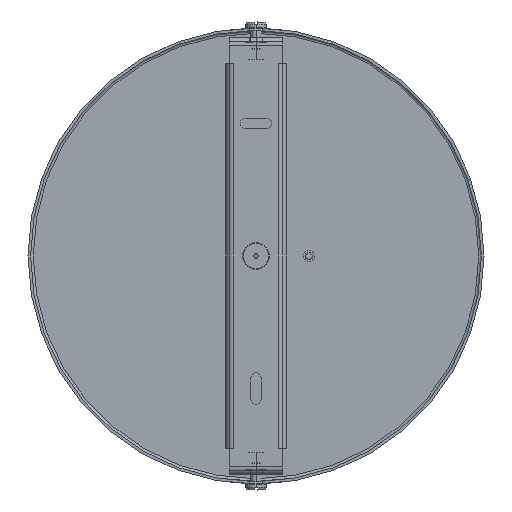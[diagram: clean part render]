
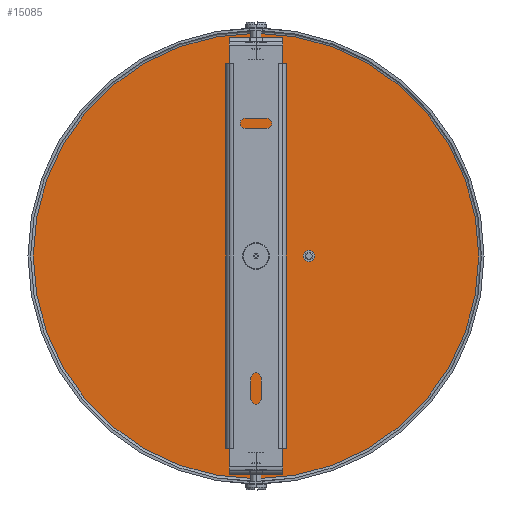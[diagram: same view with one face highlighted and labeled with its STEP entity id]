
A CAD part, front view. The second image highlights one B-rep face of the part: STEP entity #15085.
In plain terms, the highlighted planar face has unit normal (0, -1, 0) as drawn and (0, 1, 0) by its records, which use the part's own axes.
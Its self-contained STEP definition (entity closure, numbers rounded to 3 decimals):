
#93 = CARTESIAN_POINT ( 'NONE',  ( 0., 1., 0. ) ) ;
#126 = EDGE_CURVE ( 'NONE', #13612, #12128, #10805, .T. ) ;
#209 = ORIENTED_EDGE ( 'NONE', *, *, #14247, .F. ) ;
#312 = EDGE_LOOP ( 'NONE', ( #2996, #1191 ) ) ;
#380 = FACE_BOUND ( 'NONE', #14216, .T. ) ;
#410 = EDGE_LOOP ( 'NONE', ( #5387, #11511 ) ) ;
#593 = CARTESIAN_POINT ( 'NONE',  ( 0., 1., 0. ) ) ;
#807 = CARTESIAN_POINT ( 'NONE',  ( 0., 1., -18. ) ) ;
#1129 = EDGE_CURVE ( 'NONE', #14516, #11223, #7085, .T. ) ;
#1191 = ORIENTED_EDGE ( 'NONE', *, *, #12887, .F. ) ;
#1690 = CARTESIAN_POINT ( 'NONE',  ( 20., 1., 0. ) ) ;
#1771 = DIRECTION ( 'NONE',  ( 0., 0., 1. ) ) ;
#2068 = DIRECTION ( 'NONE',  ( 0., -1., 0. ) ) ;
#2459 = PLANE ( 'NONE',  #13829 ) ;
#2722 = DIRECTION ( 'NONE',  ( 0., 1., 0. ) ) ;
#2832 = CARTESIAN_POINT ( 'NONE',  ( 0., 1., -20.5 ) ) ;
#2883 = DIRECTION ( 'NONE',  ( 0., 0., 1. ) ) ;
#2996 = ORIENTED_EDGE ( 'NONE', *, *, #9766, .F. ) ;
#3118 = AXIS2_PLACEMENT_3D ( 'NONE', #11575, #10556, #4478 ) ;
#3328 = DIRECTION ( 'NONE',  ( 0., 0., 1. ) ) ;
#3443 = ORIENTED_EDGE ( 'NONE', *, *, #7318, .F. ) ;
#3478 = CIRCLE ( 'NONE', #3118, 5.25 ) ;
#3686 = DIRECTION ( 'NONE',  ( 0., 1., 0. ) ) ;
#4029 = DIRECTION ( 'NONE',  ( 0., 1., 0. ) ) ;
#4044 = EDGE_CURVE ( 'NONE', #8137, #13679, #3478, .T. ) ;
#4348 = VERTEX_POINT ( 'NONE', #9750 ) ;
#4478 = DIRECTION ( 'NONE',  ( 0., 0., 1. ) ) ;
#4638 = CARTESIAN_POINT ( 'NONE',  ( 0., 1., -5.25 ) ) ;
#4800 = CARTESIAN_POINT ( 'NONE',  ( 0., 1., -84. ) ) ;
#5127 = CARTESIAN_POINT ( 'NONE',  ( 0., 1., -20.5 ) ) ;
#5193 = VERTEX_POINT ( 'NONE', #13620 ) ;
#5387 = ORIENTED_EDGE ( 'NONE', *, *, #4044, .F. ) ;
#5482 = ORIENTED_EDGE ( 'NONE', *, *, #1129, .F. ) ;
#5564 = AXIS2_PLACEMENT_3D ( 'NONE', #1690, #10037, #2883 ) ;
#5581 = AXIS2_PLACEMENT_3D ( 'NONE', #2832, #2722, #11027 ) ;
#5741 = CIRCLE ( 'NONE', #8505, 2.25 ) ;
#5819 = EDGE_LOOP ( 'NONE', ( #209, #5482 ) ) ;
#6007 = CIRCLE ( 'NONE', #8436, 5.25 ) ;
#6083 = CARTESIAN_POINT ( 'NONE',  ( 0., 1., 84. ) ) ;
#6854 = FACE_OUTER_BOUND ( 'NONE', #5819, .T. ) ;
#7085 = CIRCLE ( 'NONE', #12438, 84. ) ;
#7318 = EDGE_CURVE ( 'NONE', #12128, #13612, #15247, .T. ) ;
#7919 = DIRECTION ( 'NONE',  ( 0., 1., 0. ) ) ;
#7991 = ORIENTED_EDGE ( 'NONE', *, *, #126, .F. ) ;
#8137 = VERTEX_POINT ( 'NONE', #4638 ) ;
#8424 = CIRCLE ( 'NONE', #5564, 2.25 ) ;
#8436 = AXIS2_PLACEMENT_3D ( 'NONE', #93, #14408, #11982 ) ;
#8505 = AXIS2_PLACEMENT_3D ( 'NONE', #12868, #7919, #3328 ) ;
#9102 = DIRECTION ( 'NONE',  ( 0., 0., 1. ) ) ;
#9750 = CARTESIAN_POINT ( 'NONE',  ( 20., 1., 2.25 ) ) ;
#9766 = EDGE_CURVE ( 'NONE', #5193, #4348, #5741, .T. ) ;
#10037 = DIRECTION ( 'NONE',  ( 0., 1., 0. ) ) ;
#10209 = FACE_BOUND ( 'NONE', #410, .T. ) ;
#10556 = DIRECTION ( 'NONE',  ( 0., 1., 0. ) ) ;
#10805 = CIRCLE ( 'NONE', #5581, 2.5 ) ;
#10820 = CIRCLE ( 'NONE', #11536, 84. ) ;
#11027 = DIRECTION ( 'NONE',  ( 0., 0., 1. ) ) ;
#11223 = VERTEX_POINT ( 'NONE', #6083 ) ;
#11248 = DIRECTION ( 'NONE',  ( 0., -1., 0. ) ) ;
#11511 = ORIENTED_EDGE ( 'NONE', *, *, #13291, .F. ) ;
#11536 = AXIS2_PLACEMENT_3D ( 'NONE', #12588, #2068, #9102 ) ;
#11575 = CARTESIAN_POINT ( 'NONE',  ( 0., 1., 0. ) ) ;
#11982 = DIRECTION ( 'NONE',  ( 0., 0., 1. ) ) ;
#12045 = FACE_BOUND ( 'NONE', #312, .T. ) ;
#12128 = VERTEX_POINT ( 'NONE', #12444 ) ;
#12438 = AXIS2_PLACEMENT_3D ( 'NONE', #593, #11248, #1771 ) ;
#12444 = CARTESIAN_POINT ( 'NONE',  ( 0., 1., -23. ) ) ;
#12588 = CARTESIAN_POINT ( 'NONE',  ( 0., 1., 0. ) ) ;
#12868 = CARTESIAN_POINT ( 'NONE',  ( 20., 1., 0. ) ) ;
#12887 = EDGE_CURVE ( 'NONE', #4348, #5193, #8424, .T. ) ;
#13185 = DIRECTION ( 'NONE',  ( 0., 0., 1. ) ) ;
#13228 = CARTESIAN_POINT ( 'NONE',  ( 0., 1., 0. ) ) ;
#13291 = EDGE_CURVE ( 'NONE', #13679, #8137, #6007, .T. ) ;
#13612 = VERTEX_POINT ( 'NONE', #807 ) ;
#13620 = CARTESIAN_POINT ( 'NONE',  ( 20., 1., -2.25 ) ) ;
#13679 = VERTEX_POINT ( 'NONE', #14006 ) ;
#13829 = AXIS2_PLACEMENT_3D ( 'NONE', #13228, #3686, #13185 ) ;
#14006 = CARTESIAN_POINT ( 'NONE',  ( 0., 1., 5.25 ) ) ;
#14189 = AXIS2_PLACEMENT_3D ( 'NONE', #5127, #4029, #14597 ) ;
#14216 = EDGE_LOOP ( 'NONE', ( #7991, #3443 ) ) ;
#14247 = EDGE_CURVE ( 'NONE', #11223, #14516, #10820, .T. ) ;
#14408 = DIRECTION ( 'NONE',  ( 0., 1., 0. ) ) ;
#14516 = VERTEX_POINT ( 'NONE', #4800 ) ;
#14597 = DIRECTION ( 'NONE',  ( 0., 0., 1. ) ) ;
#15085 = ADVANCED_FACE ( 'NONE', ( #380, #6854, #10209, #12045 ), #2459, .T. ) ;
#15247 = CIRCLE ( 'NONE', #14189, 2.5 ) ;
